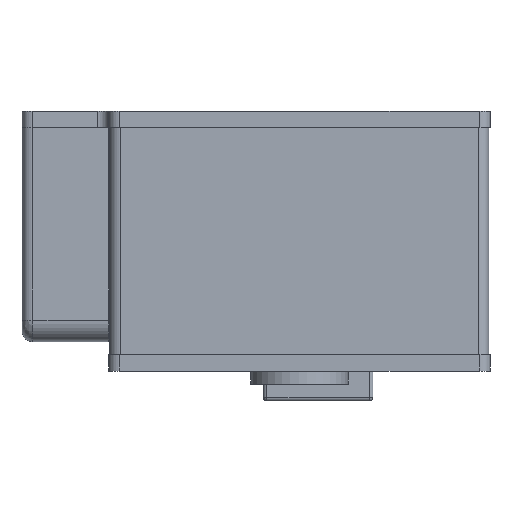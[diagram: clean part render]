
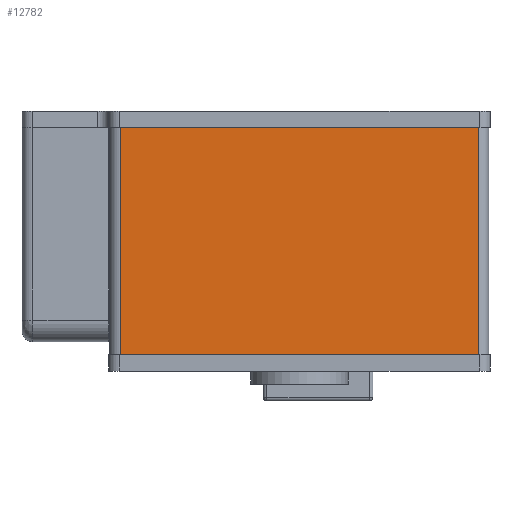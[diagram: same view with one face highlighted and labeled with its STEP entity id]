
A CAD part, front view. The second image highlights one B-rep face of the part: STEP entity #12782.
In plain terms, the highlighted planar face has unit normal (0, -1, 0).
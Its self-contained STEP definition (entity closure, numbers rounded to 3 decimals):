
#1227=FACE_OUTER_BOUND('',#2058,.T.);
#2058=EDGE_LOOP('',(#9843,#9844,#9845,#9846));
#3153=LINE('',#19990,#4108);
#3166=LINE('',#20025,#4121);
#3170=LINE('',#20035,#4125);
#3177=LINE('',#20054,#4132);
#4108=VECTOR('',#16445,33.);
#4121=VECTOR('',#16484,21.);
#4125=VECTOR('',#16494,33.);
#4132=VECTOR('',#16517,21.);
#5601=VERTEX_POINT('',#19976);
#5607=VERTEX_POINT('',#19988);
#5616=VERTEX_POINT('',#20024);
#5619=VERTEX_POINT('',#20034);
#7099=EDGE_CURVE('',#5601,#5607,#3153,.T.);
#7116=EDGE_CURVE('',#5601,#5616,#3166,.T.);
#7121=EDGE_CURVE('',#5616,#5619,#3170,.T.);
#7131=EDGE_CURVE('',#5619,#5607,#3177,.T.);
#9843=ORIENTED_EDGE('',*,*,#7116,.F.);
#9844=ORIENTED_EDGE('',*,*,#7099,.T.);
#9845=ORIENTED_EDGE('',*,*,#7131,.F.);
#9846=ORIENTED_EDGE('',*,*,#7121,.F.);
#11532=PLANE('',#13838);
#12782=ADVANCED_FACE('',(#1227),#11532,.T.);
#13838=AXIS2_PLACEMENT_3D('',#20055,#16518,#16519);
#16445=DIRECTION('',(1.,0.,0.));
#16484=DIRECTION('',(0.,0.,1.));
#16494=DIRECTION('',(1.,0.,0.));
#16517=DIRECTION('',(0.,0.,-1.));
#16518=DIRECTION('center_axis',(0.,-1.,0.));
#16519=DIRECTION('ref_axis',(0.,0.,-1.));
#19976=CARTESIAN_POINT('',(-16.5,-17.5,-21.));
#19988=CARTESIAN_POINT('',(16.5,-17.5,-21.));
#19990=CARTESIAN_POINT('',(-17.5,-17.5,-21.));
#20024=CARTESIAN_POINT('',(-16.5,-17.5,0.));
#20025=CARTESIAN_POINT('',(-16.5,-17.5,0.));
#20034=CARTESIAN_POINT('',(16.5,-17.5,0.));
#20035=CARTESIAN_POINT('',(-17.5,-17.5,0.));
#20054=CARTESIAN_POINT('',(16.5,-17.5,0.));
#20055=CARTESIAN_POINT('Origin',(-17.5,-17.5,0.));
